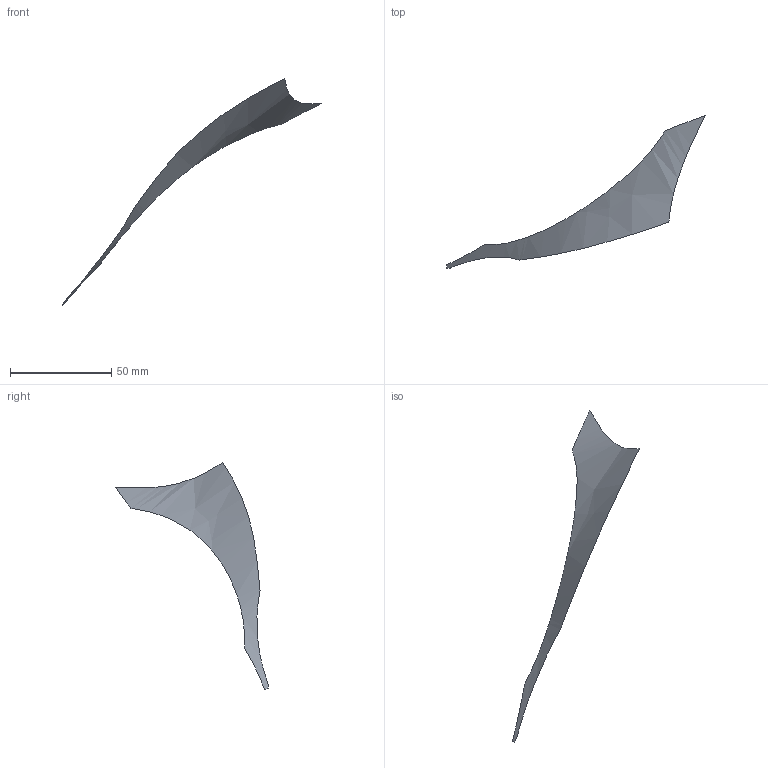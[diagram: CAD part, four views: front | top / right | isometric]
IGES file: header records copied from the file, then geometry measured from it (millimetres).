
Start section: START RECORD GO HERE
Global section: file name: s16.igs; native system: IBM CATIA IGES - CATIA SOLUTIONS V4RELEASE 1.9 REFRESH 01; preprocessor: CATIA SOLUTIONS V4RELEASE 1.9 REFRESH 01; author: cky; date: 990510.133752; units: millimetre
Bounding box: 127.89 x 75.57 x 112.11 mm (x, y, z)
Surface area: 3421.9 mm2 (no closed solid volume)
Topology: 0 solids, 0 shells, 1 faces, 70 edges, 70 vertices
Faces by surface type: bspline 1
